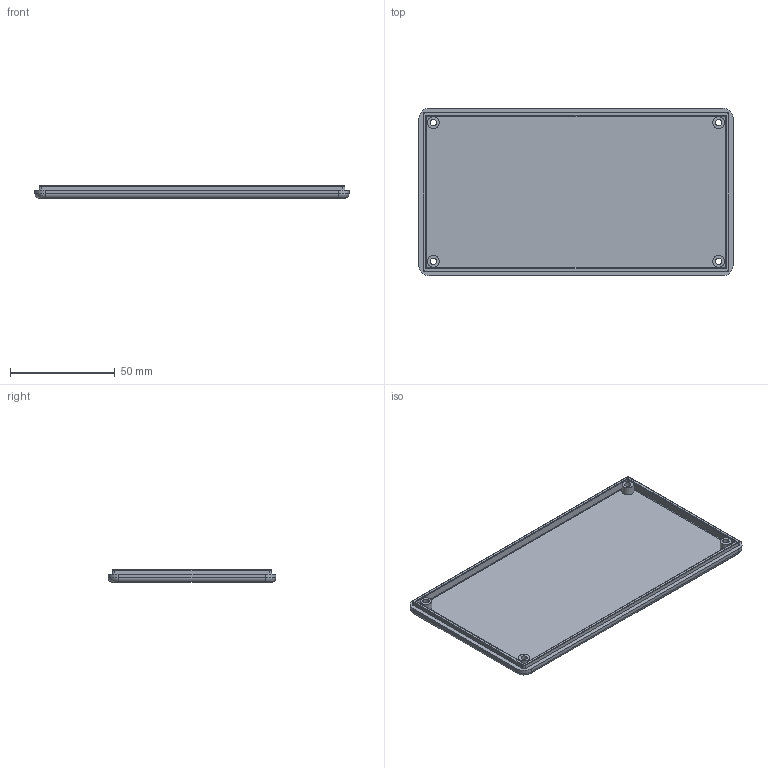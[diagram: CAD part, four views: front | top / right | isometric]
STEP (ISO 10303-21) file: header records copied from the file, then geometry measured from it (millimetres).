
FILE_DESCRIPTION((''),'2;1');
FILE_NAME('E:\Eng\Customer Service\Drawings\1591\1591D\1591D Lid.stp','2006-02-20T09:48:57',('rboehler'),(''),'Autodesk Inventor 10','Autodesk Inventor 10','');
FILE_SCHEMA(('AUTOMOTIVE_DESIGN { 1 0 10303 214 1 1 1 1 }'));
Length unit declared in the file: millimetre
Products named in the file (1): 1591D Lid
Bounding box: 150 x 80 x 5.8 mm (x, y, z)
Volume: 26858.9 mm3; surface area: 28083.5 mm2
Topology: 1 solids, 1 shells, 68 faces, 152 edges, 92 vertices
Faces by surface type: cylinder 28, plane 20, bspline 16, cone 4
Full cylindrical faces by diameter (mm): 5.6 x4
Entity records: 2511 total; most frequent: CARTESIAN_POINT 1049, DIRECTION 310, ORIENTED_EDGE 264, EDGE_CURVE 132, AXIS2_PLACEMENT_3D 125, EDGE_LOOP 98, VERTEX_POINT 88, FACE_OUTER_BOUND 68
